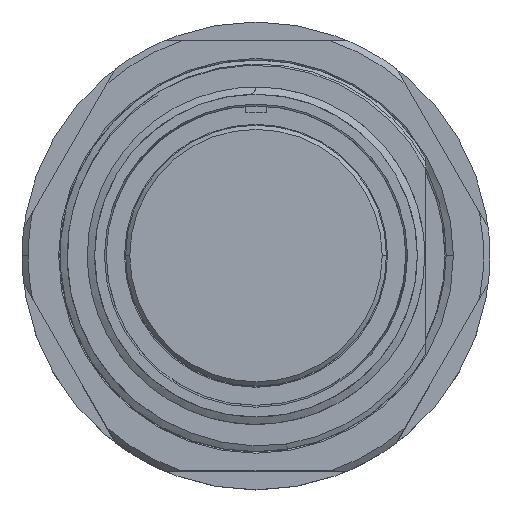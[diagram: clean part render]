
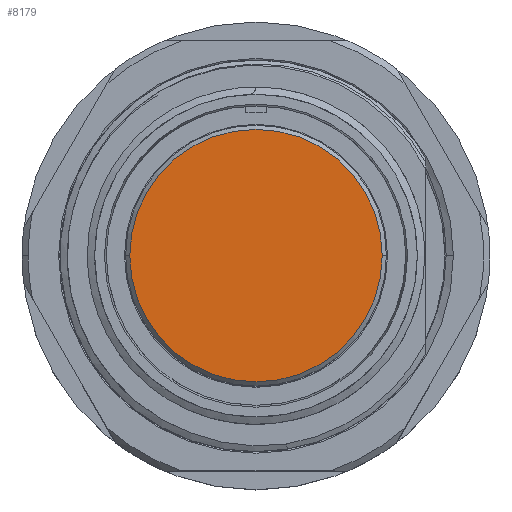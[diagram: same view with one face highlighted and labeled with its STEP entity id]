
A CAD part, top view. The second image highlights one B-rep face of the part: STEP entity #8179.
In plain terms, the highlighted planar face has unit normal (0, 0, 1).
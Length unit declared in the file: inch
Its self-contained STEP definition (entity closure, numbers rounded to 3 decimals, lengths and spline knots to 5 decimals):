
#295 = DIRECTION ( 'NONE',  ( 0., 0., 1. ) ) ;
#996 = DIRECTION ( 'NONE',  ( 1., 0., 0. ) ) ;
#1357 = CARTESIAN_POINT ( 'NONE',  ( 0., 0., -0.018 ) ) ;
#1821 = PLANE ( 'NONE',  #11289 ) ;
#1917 = CARTESIAN_POINT ( 'NONE',  ( 0.6045, 0., -0.018 ) ) ;
#2558 = CIRCLE ( 'NONE', #10379, 0.6045 ) ;
#2705 = EDGE_CURVE ( 'NONE', #7529, #11142, #2558, .T. ) ;
#2985 = EDGE_CURVE ( 'NONE', #11142, #7529, #5102, .T. ) ;
#3266 = CARTESIAN_POINT ( 'NONE',  ( -0.6045, 0., -0.018 ) ) ;
#5102 = CIRCLE ( 'NONE', #10178, 0.6045 ) ;
#5869 = CARTESIAN_POINT ( 'NONE',  ( 0., 0., -0.018 ) ) ;
#7440 = ORIENTED_EDGE ( 'NONE', *, *, #2705, .T. ) ;
#7529 = VERTEX_POINT ( 'NONE', #3266 ) ;
#7595 = DIRECTION ( 'NONE',  ( 0., 0., 1. ) ) ;
#8179 = ADVANCED_FACE ( 'NONE', ( #8773 ), #1821, .T. ) ;
#8274 = DIRECTION ( 'NONE',  ( 0., 0., 1. ) ) ;
#8660 = EDGE_LOOP ( 'NONE', ( #7440, #11499 ) ) ;
#8773 = FACE_OUTER_BOUND ( 'NONE', #8660, .T. ) ;
#10178 = AXIS2_PLACEMENT_3D ( 'NONE', #11302, #8274, #996 ) ;
#10379 = AXIS2_PLACEMENT_3D ( 'NONE', #1357, #295, #11269 ) ;
#11142 = VERTEX_POINT ( 'NONE', #1917 ) ;
#11269 = DIRECTION ( 'NONE',  ( 1., 0., 0. ) ) ;
#11289 = AXIS2_PLACEMENT_3D ( 'NONE', #5869, #7595, #11607 ) ;
#11302 = CARTESIAN_POINT ( 'NONE',  ( 0., 0., -0.018 ) ) ;
#11499 = ORIENTED_EDGE ( 'NONE', *, *, #2985, .T. ) ;
#11607 = DIRECTION ( 'NONE',  ( 1., 0., 0. ) ) ;
